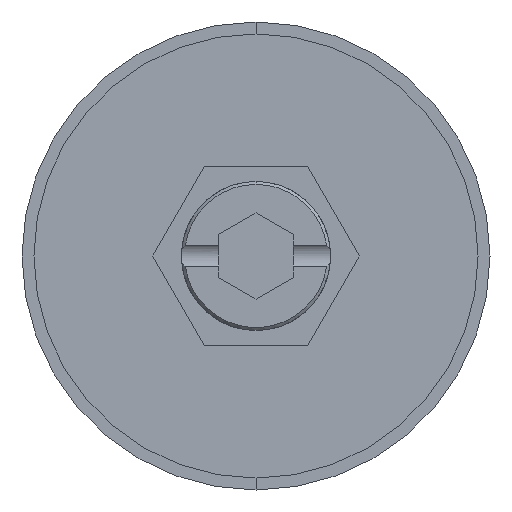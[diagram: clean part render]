
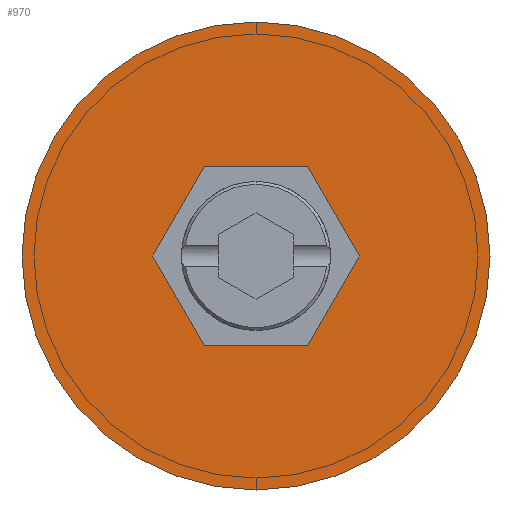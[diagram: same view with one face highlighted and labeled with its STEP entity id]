
A CAD part, front view. The second image highlights one B-rep face of the part: STEP entity #970.
In plain terms, the highlighted planar face has unit normal (0, -1, 0).
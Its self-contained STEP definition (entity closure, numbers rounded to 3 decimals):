
#14 = DIRECTION ( 'NONE',  ( -0.5, 0., -0.866 ) ) ;
#57 = FACE_BOUND ( 'NONE', #1924, .T. ) ;
#83 = ORIENTED_EDGE ( 'NONE', *, *, #1169, .F. ) ;
#110 = VERTEX_POINT ( 'NONE', #1536 ) ;
#133 = VERTEX_POINT ( 'NONE', #1894 ) ;
#167 = ORIENTED_EDGE ( 'NONE', *, *, #1820, .F. ) ;
#195 = LINE ( 'NONE', #830, #538 ) ;
#282 = CIRCLE ( 'NONE', #759, 15.7 ) ;
#292 = ORIENTED_EDGE ( 'NONE', *, *, #1210, .F. ) ;
#318 = DIRECTION ( 'NONE',  ( 0., 0., -1. ) ) ;
#330 = CARTESIAN_POINT ( 'NONE',  ( -3.464, 0., -6. ) ) ;
#464 = LINE ( 'NONE', #1570, #1287 ) ;
#520 = CARTESIAN_POINT ( 'NONE',  ( 6.928, 0., 0. ) ) ;
#538 = VECTOR ( 'NONE', #992, 1000. ) ;
#555 = VERTEX_POINT ( 'NONE', #1211 ) ;
#561 = AXIS2_PLACEMENT_3D ( 'NONE', #938, #1618, #1627 ) ;
#639 = EDGE_CURVE ( 'NONE', #949, #1940, #2095, .T. ) ;
#662 = ORIENTED_EDGE ( 'NONE', *, *, #1263, .T. ) ;
#759 = AXIS2_PLACEMENT_3D ( 'NONE', #1407, #1534, #2201 ) ;
#830 = CARTESIAN_POINT ( 'NONE',  ( 3.464, 0., 6. ) ) ;
#858 = AXIS2_PLACEMENT_3D ( 'NONE', #1863, #1671, #318 ) ;
#916 = ORIENTED_EDGE ( 'NONE', *, *, #639, .F. ) ;
#938 = CARTESIAN_POINT ( 'NONE',  ( 0., 0., 0. ) ) ;
#940 = VECTOR ( 'NONE', #1531, 1000. ) ;
#949 = VERTEX_POINT ( 'NONE', #1251 ) ;
#970 = ADVANCED_FACE ( 'NONE', ( #57, #1075 ), #1410, .T. ) ;
#992 = DIRECTION ( 'NONE',  ( -1., 0., 0. ) ) ;
#1022 = DIRECTION ( 'NONE',  ( 0.5, 0., 0.866 ) ) ;
#1060 = CARTESIAN_POINT ( 'NONE',  ( -3.464, 0., 6. ) ) ;
#1075 = FACE_OUTER_BOUND ( 'NONE', #1301, .T. ) ;
#1096 = EDGE_CURVE ( 'NONE', #1634, #949, #464, .T. ) ;
#1169 = EDGE_CURVE ( 'NONE', #1940, #2208, #1589, .T. ) ;
#1180 = VERTEX_POINT ( 'NONE', #1540 ) ;
#1210 = EDGE_CURVE ( 'NONE', #110, #133, #195, .T. ) ;
#1211 = CARTESIAN_POINT ( 'NONE',  ( 0., 0., 15.7 ) ) ;
#1236 = DIRECTION ( 'NONE',  ( 1., 0., 0. ) ) ;
#1239 = ORIENTED_EDGE ( 'NONE', *, *, #2162, .T. ) ;
#1251 = CARTESIAN_POINT ( 'NONE',  ( -3.464, 0., -6. ) ) ;
#1263 = EDGE_CURVE ( 'NONE', #555, #1180, #1888, .T. ) ;
#1287 = VECTOR ( 'NONE', #1574, 1000. ) ;
#1301 = EDGE_LOOP ( 'NONE', ( #1239, #662 ) ) ;
#1335 = CARTESIAN_POINT ( 'NONE',  ( 6.928, 0., 0. ) ) ;
#1397 = LINE ( 'NONE', #1335, #940 ) ;
#1407 = CARTESIAN_POINT ( 'NONE',  ( 0., 0., 0. ) ) ;
#1410 = PLANE ( 'NONE',  #561 ) ;
#1444 = CARTESIAN_POINT ( 'NONE',  ( -6.928, 0., 0. ) ) ;
#1531 = DIRECTION ( 'NONE',  ( -0.5, 0., 0.866 ) ) ;
#1534 = DIRECTION ( 'NONE',  ( 0., -1., 0. ) ) ;
#1536 = CARTESIAN_POINT ( 'NONE',  ( 3.464, 0., 6. ) ) ;
#1540 = CARTESIAN_POINT ( 'NONE',  ( 0., 0., -15.7 ) ) ;
#1570 = CARTESIAN_POINT ( 'NONE',  ( -6.928, 0., 0. ) ) ;
#1574 = DIRECTION ( 'NONE',  ( 0.5, 0., -0.866 ) ) ;
#1589 = LINE ( 'NONE', #2120, #2054 ) ;
#1618 = DIRECTION ( 'NONE',  ( 0., -1., 0. ) ) ;
#1625 = LINE ( 'NONE', #1060, #2088 ) ;
#1627 = DIRECTION ( 'NONE',  ( 0., 0., -1. ) ) ;
#1634 = VERTEX_POINT ( 'NONE', #1444 ) ;
#1671 = DIRECTION ( 'NONE',  ( 0., -1., 0. ) ) ;
#1724 = CARTESIAN_POINT ( 'NONE',  ( 3.464, 0., -6. ) ) ;
#1820 = EDGE_CURVE ( 'NONE', #2208, #110, #1397, .T. ) ;
#1863 = CARTESIAN_POINT ( 'NONE',  ( 0., 0., 0. ) ) ;
#1888 = CIRCLE ( 'NONE', #858, 15.7 ) ;
#1894 = CARTESIAN_POINT ( 'NONE',  ( -3.464, 0., 6. ) ) ;
#1924 = EDGE_LOOP ( 'NONE', ( #916, #2045, #2099, #292, #167, #83 ) ) ;
#1940 = VERTEX_POINT ( 'NONE', #1724 ) ;
#2045 = ORIENTED_EDGE ( 'NONE', *, *, #1096, .F. ) ;
#2054 = VECTOR ( 'NONE', #1022, 1000. ) ;
#2067 = VECTOR ( 'NONE', #1236, 1000. ) ;
#2088 = VECTOR ( 'NONE', #14, 1000. ) ;
#2095 = LINE ( 'NONE', #330, #2067 ) ;
#2099 = ORIENTED_EDGE ( 'NONE', *, *, #2149, .F. ) ;
#2120 = CARTESIAN_POINT ( 'NONE',  ( 3.464, 0., -6. ) ) ;
#2149 = EDGE_CURVE ( 'NONE', #133, #1634, #1625, .T. ) ;
#2162 = EDGE_CURVE ( 'NONE', #1180, #555, #282, .T. ) ;
#2201 = DIRECTION ( 'NONE',  ( 0., 0., -1. ) ) ;
#2208 = VERTEX_POINT ( 'NONE', #520 ) ;
